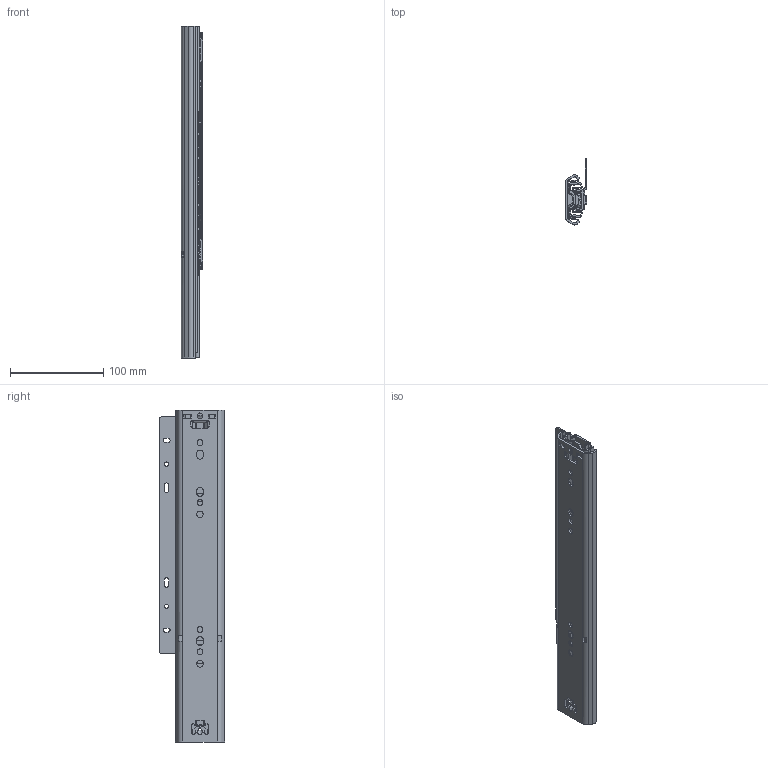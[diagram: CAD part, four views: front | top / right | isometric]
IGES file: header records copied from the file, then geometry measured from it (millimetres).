
Global section: file name: No Iges File Name specified; native system: Autodesk Inventor 2012; preprocessor: AutoDesk Inventor Iges Exporter R2012; author: HV83751; date: 20130708.085659; units: inch
Bounding box: 22.61 x 70.18 x 355.61 mm (x, y, z)
Surface area: 169113 mm2
Topology: 6 solids, 23 shells, 1359 faces, 4010 edges, 2582 vertices
Faces by surface type: plane 699, revolution 345, cylinder 268, bspline 38, torus 9
